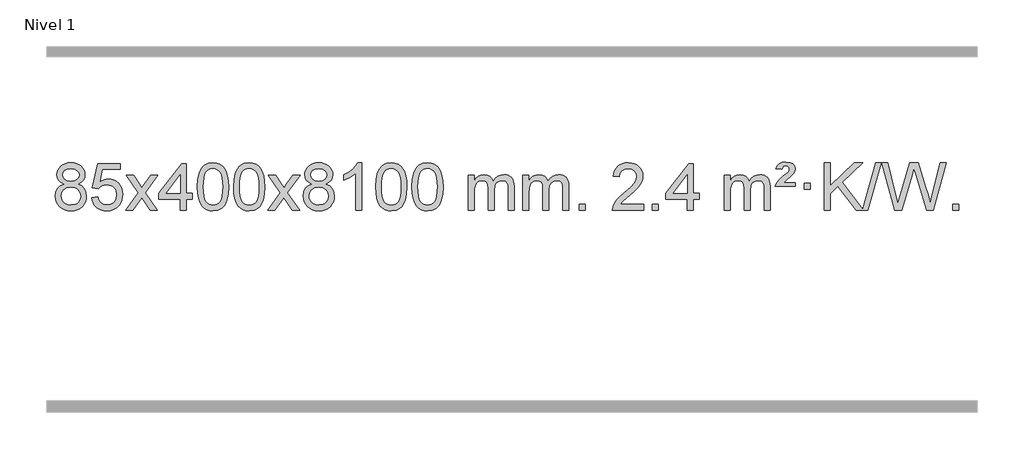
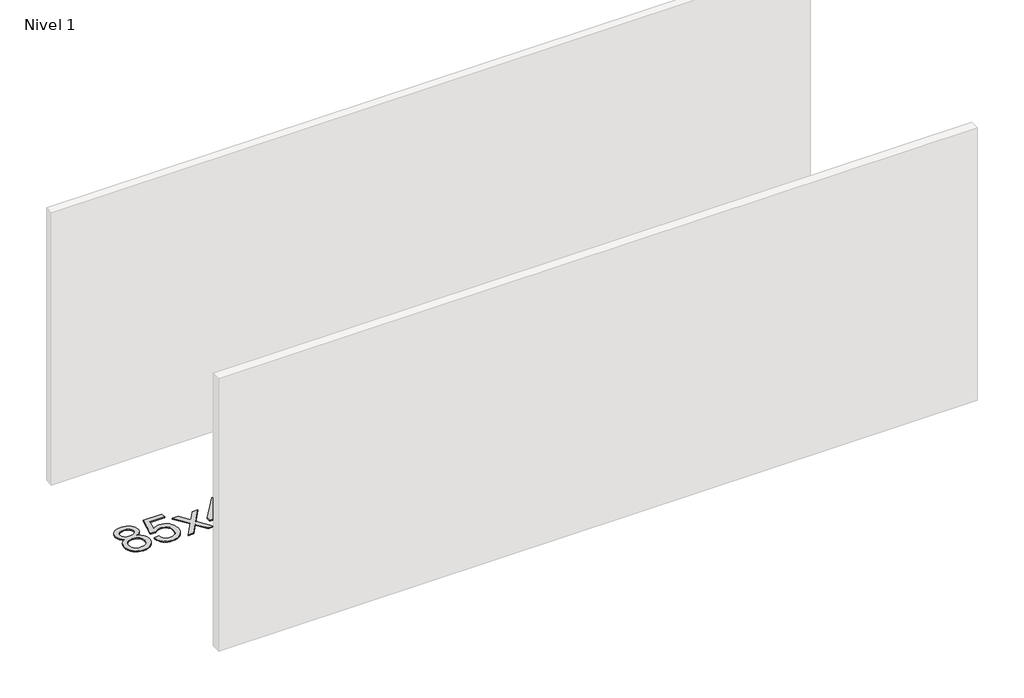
# One storey, part 3 of 12: 1 proxy.
"""IFC4 building model written with IfcOpenShell, lengths in millimetres."""

from ifc_helpers import new_model, si_unit, origin, origin_with_axes, place, context, project, spatial, polyline, outline, extrude, element, save

model = new_model("IFC4")

# Units and contexts
model_context = context("Model", 3, world=origin())
ifc_project = project(units=[si_unit("LENGTHUNIT", "METRE", prefix="MILLI")], contexts=[model_context])

# Site, building, storey
site = spatial("IfcSite", under=ifc_project)
building = spatial("IfcBuilding", under=site)
storey = spatial("IfcBuildingStorey", under=building, Name="Nivel 1", Elevation=0.0)

# Proxy
placement = place(None, origin())
element("IfcBuildingElementProxy", 1, Name="Texto de modelo 1", ObjectType="Texto de modelo 1", at=placement, inside=storey, context=model_context, shape_type="SweptSolid", body=[
    extrude(outline(polyline([(-11482.9857189, -6174.2616447), (-11509.8778927, -6161.0178929), (-11528.7502391, -6143.0652515), (-11539.8970635, -6120.7716026), (-11543.6126717, -6094.5048281), (-11541.5893207, -6074.0199324), (-11535.5192678, -6055.2395565), (-11525.4025129, -6038.1637006), (-11511.2390561, -6022.7923645), (-11493.709479, -6010.088173), (-11473.4943634, -6001.0137504), (-11450.5937092, -5995.5690969), (-11425.0075164, -5993.7542124), (-11399.2986964, -5995.6120165), (-11376.2263639, -6001.1854287), (-11355.7905191, -6010.4744491), (-11337.9911619, -6023.4790776), (-11323.5701876, -6039.1508506), (-11313.2694918, -6056.4413044), (-11307.0890743, -6075.3504389), (-11305.0289351, -6095.8782543), (-11308.6954923, -6121.2989001), (-11319.695164, -6143.2124043), (-11338.1505774, -6161.0546811), (-11364.1843599, -6174.2616447), (-11333.2700096, -6190.1909351), (-11310.7678942, -6213.6495436), (-11297.0458958, -6243.5092989), (-11292.4718963, -6278.6420295), (-11294.740502, -6303.6947933), (-11301.5463189, -6326.6628926), (-11312.8893471, -6347.5463272), (-11328.7695865, -6366.3450971), (-11348.3531714, -6381.88198), (-11370.8062358, -6392.9797536), (-11396.1287798, -6399.6384177), (-11424.3208034, -6401.8579724), (-11452.512827, -6399.6292206), (-11477.835371, -6392.9429654), (-11500.2884354, -6381.7992066), (-11519.8720203, -6366.1979443), (-11535.7522597, -6347.26735), (-11547.0952879, -6326.135595), (-11553.9011048, -6302.8026795), (-11556.1697105, -6277.2686033), (-11551.41177, -6240.7747094), (-11537.1379486, -6210.7555386), (-11514.0840102, -6188.2411605), (-11482.9857189, -6174.2616447)]), holes=[polyline([(-11493.3845166, -6095.9763561), (-11488.9331445, -6117.902123), (-11475.5790281, -6135.413306), (-11453.7145748, -6146.8912243), (-11423.7321922, -6150.717197), (-11394.4487854, -6146.9157497), (-11372.9154259, -6135.5114079), (-11359.6716741, -6118.5888361), (-11355.2570902, -6098.232699), (-11359.8188269, -6077.1040098), (-11373.5040371, -6059.629615), (-11395.3317022, -6047.8941794), (-11424.3208034, -6043.9823675), (-11453.4938456, -6047.8083402), (-11475.2847225, -6059.2862585), (-11488.8595681, -6076.1107284), (-11493.3845166, -6095.9763561)]), polyline([(-11505.9415554, -6275.5027698), (-11503.844628, -6294.7184726), (-11497.5538459, -6313.3210389), (-11485.9410376, -6329.5446349), (-11467.8780316, -6341.623427), (-11446.2465703, -6349.1282197), (-11423.9283959, -6351.6298173), (-11389.7398958, -6346.3691048), (-11375.8462192, -6339.7932141), (-11364.086258, -6330.5869672), (-11348.0466031, -6306.6869002), (-11342.7000514, -6277.0723996), (-11348.2182813, -6246.9551269), (-11364.7729711, -6222.5277625), (-11376.8517633, -6213.0854579), (-11391.0152201, -6206.3409547), (-11425.5961276, -6200.9453521), (-11459.3063811, -6206.2673783), (-11473.043708, -6212.919911), (-11484.7025015, -6222.2334569), (-11500.6317919, -6246.1948375), (-11505.9415554, -6275.5027698)])]), origin_with_axes(), (0.0, 0.0, 1.0), 10.0),
    extrude(outline(polyline([(-11248.5222606, -6288.8446235), (-11198.2941056, -6282.5661041), (-11189.0725302, -6312.7201649), (-11172.9838243, -6334.3148381), (-11150.1015642, -6347.3010725), (-11120.4993263, -6351.6298173), (-11101.3694626, -6350.1245668), (-11084.4959417, -6345.6088153), (-11069.8787638, -6338.0825628), (-11057.5179287, -6327.5458094), (-11047.6893481, -6314.519721), (-11040.6689334, -6299.5254641), (-11035.0526016, -6263.6324441), (-11040.3133141, -6229.8363514), (-11046.8892048, -6215.9181493), (-11056.0954517, -6203.9865099), (-11067.9627117, -6194.4154467), (-11082.5216417, -6187.5789729), (-11119.7145114, -6182.1097939), (-11144.0805622, -6184.2925604), (-11163.8112999, -6190.8408599), (-11179.568912, -6200.8717757), (-11192.0155862, -6213.5023908), (-11242.2437412, -6207.2238715), (-11198.2941056, -6000.0327318), (-11003.6600046, -6000.0327318), (-11003.6600046, -6050.2608869), (-11157.6799333, -6050.2608869), (-11179.1642418, -6160.919791), (-11161.438461, -6148.2155994), (-11143.2834845, -6139.1411769), (-11124.6993124, -6133.6965234), (-11105.6859446, -6131.8816388), (-11081.2248576, -6134.1318504), (-11058.7564648, -6140.882485), (-11038.2807661, -6152.1335427), (-11019.7977615, -6167.8850234), (-11004.4969362, -6187.1743027), (-10993.5677752, -6209.038756), (-10987.0102787, -6233.4783832), (-10984.8244465, -6260.4931844), (-10986.7926152, -6286.5147042), (-10992.6971212, -6310.7213394), (-11002.5379646, -6333.1130902), (-11016.3151453, -6353.6899565), (-11037.1863171, -6374.7634634), (-11061.5401052, -6389.8159684), (-11089.3765095, -6398.8474714), (-11120.69553, -6401.8579724), (-11146.6158823, -6399.9235262), (-11170.0285056, -6394.1201877), (-11190.9334, -6384.447957), (-11209.3305654, -6370.9068338), (-11224.6375221, -6354.1712688), (-11236.2717902, -6334.915712), (-11244.2333697, -6313.1401636), (-11248.5222606, -6288.8446235)])), origin_with_axes(), (0.0, 0.0, 1.0), 10.0),
    extrude(outline(polyline([(-10959.7103689, -6395.579453), (-10852.3869282, -6247.2494325), (-10953.4318496, -6100.4890419), (-10893.0011005, -6100.4890419), (-10844.2444734, -6171.122385), (-10821.4848406, -6204.4770192), (-10801.7663657, -6177.2047007), (-10746.2407099, -6100.4890419), (-10685.8099608, -6100.4890419), (-10791.9561791, -6247.2494325), (-10689.7340354, -6395.579453), (-10750.1647845, -6395.579453), (-10811.6746541, -6306.4048574), (-10822.9563686, -6290.1199477), (-10899.2796199, -6395.579453), (-10959.7103689, -6395.579453)])), origin_with_axes(), (0.0, 0.0, 1.0), 10.0),
    extrude(outline(polyline([(-10495.0999345, -6395.579453), (-10495.0999345, -6301.4016622), (-10677.1769967, -6301.4016622), (-10677.1769967, -6251.1735072), (-10482.5428957, -6000.0327318), (-10444.8717794, -6000.0327318), (-10444.8717794, -6251.1735072), (-10394.6436244, -6251.1735072), (-10394.6436244, -6301.4016622), (-10444.8717794, -6301.4016622), (-10444.8717794, -6395.579453), (-10495.0999345, -6395.579453)]), holes=[polyline([(-10495.0999345, -6251.1735072), (-10495.0999345, -6095.9763561), (-10615.3728215, -6251.1735072), (-10495.0999345, -6251.1735072)])]), origin_with_axes(), (0.0, 0.0, 1.0), 10.0),
    extrude(outline(polyline([(-10350.6939887, -6197.9041943), (-10347.002906, -6133.5861588), (-10335.9296579, -6082.2911459), (-10317.5846091, -6043.2343407), (-10305.7265461, -6028.0009605), (-10292.0781241, -6015.6309284), (-10276.5933578, -6006.0598651), (-10259.2262619, -5999.2233914), (-10218.8450816, -5993.7542124), (-10187.8939431, -5996.991574), (-10160.1801661, -6006.7036586), (-10137.0036004, -6022.5103217), (-10119.6640957, -6044.0314184), (-10106.5674967, -6071.0830078), (-10096.119648, -6103.4811488), (-10089.2770429, -6144.6226186), (-10086.9961745, -6197.9041943), (-10090.650469, -6261.8543477), (-10101.6133525, -6313.0267333), (-10119.8480367, -6352.1203266), (-10131.6785085, -6367.3996922), (-10145.3177335, -6379.8341036), (-10160.8208939, -6389.4695462), (-10178.2431721, -6396.3520052), (-10218.8450816, -6401.8579724), (-10246.5098076, -6399.4667394), (-10271.035274, -6392.2930405), (-10292.4214806, -6380.3368757), (-10310.6684276, -6363.5982449), (-10328.1796106, -6333.3399508), (-10340.6875984, -6295.6381776), (-10348.1923911, -6250.4929255), (-10350.6939887, -6197.9041943)]), holes=[polyline([(-10300.4658336, -6197.8060924), (-10298.9943056, -6241.4706195), (-10294.5797217, -6276.8148822), (-10287.2220818, -6303.8388804), (-10276.9213859, -6322.5426142), (-10264.462449, -6335.2682656), (-10250.630086, -6344.3580165), (-10235.4242968, -6349.8118671), (-10218.8450816, -6351.6298173), (-10202.2658663, -6349.8057357), (-10187.0600772, -6344.3334911), (-10173.2277142, -6335.2130833), (-10160.7687773, -6322.4445124), (-10150.4680814, -6303.7101217), (-10143.1104415, -6276.6922549), (-10138.6958576, -6241.3909118), (-10137.2243296, -6197.8060924), (-10138.6468066, -6155.2973278), (-10142.9142378, -6120.5753989), (-10150.026623, -6093.6403055), (-10159.9839624, -6074.4920476), (-10172.2344328, -6061.1440625), (-10186.2262114, -6051.6097875), (-10201.959298, -6045.8892225), (-10219.4336928, -6043.9823675), (-10235.9270689, -6045.6623619), (-10250.8753406, -6050.7023452), (-10264.278508, -6059.1023175), (-10276.136571, -6070.8622786), (-10286.7806234, -6091.708925), (-10294.3835179, -6119.8151094), (-10298.9452547, -6155.1808319), (-10300.4658336, -6197.8060924)])]), origin_with_axes(), (0.0, 0.0, 1.0), 10.0),
    extrude(outline(polyline([(-10043.0465388, -6197.9041943), (-10039.3554561, -6133.5861588), (-10028.2822081, -6082.2911459), (-10009.9371593, -6043.2343407), (-9998.0790963, -6028.0009605), (-9984.4306743, -6015.6309284), (-9968.945908, -6006.0598651), (-9951.5788121, -5999.2233914), (-9911.1976318, -5993.7542124), (-9880.2464932, -5996.991574), (-9852.5327163, -6006.7036586), (-9829.3561506, -6022.5103217), (-9812.0166459, -6044.0314184), (-9798.9200468, -6071.0830078), (-9788.4721982, -6103.4811488), (-9781.6295931, -6144.6226186), (-9779.3487247, -6197.9041943), (-9783.0030192, -6261.8543477), (-9793.9659026, -6313.0267333), (-9812.2005869, -6352.1203266), (-9824.0310587, -6367.3996922), (-9837.6702837, -6379.8341036), (-9853.1734441, -6389.4695462), (-9870.5957222, -6396.3520052), (-9911.1976318, -6401.8579724), (-9938.8623578, -6399.4667394), (-9963.3878241, -6392.2930405), (-9984.7740308, -6380.3368757), (-10003.0209778, -6363.5982449), (-10020.5321607, -6333.3399508), (-10033.0401486, -6295.6381776), (-10040.5449413, -6250.4929255), (-10043.0465388, -6197.9041943)]), holes=[polyline([(-9992.8183838, -6197.8060924), (-9991.3468558, -6241.4706195), (-9986.9322718, -6276.8148822), (-9979.5746319, -6303.8388804), (-9969.2739361, -6322.5426142), (-9956.8149992, -6335.2682656), (-9942.9826361, -6344.3580165), (-9927.776847, -6349.8118671), (-9911.1976318, -6351.6298173), (-9894.6184165, -6349.8057357), (-9879.4126274, -6344.3334911), (-9865.5802644, -6335.2130833), (-9853.1213275, -6322.4445124), (-9842.8206316, -6303.7101217), (-9835.4629917, -6276.6922549), (-9831.0484077, -6241.3909118), (-9829.5768798, -6197.8060924), (-9830.9993568, -6155.2973278), (-9835.266788, -6120.5753989), (-9842.3791732, -6093.6403055), (-9852.3365125, -6074.4920476), (-9864.586983, -6061.1440625), (-9878.5787615, -6051.6097875), (-9894.3118482, -6045.8892225), (-9911.786243, -6043.9823675), (-9928.2796191, -6045.6623619), (-9943.2278908, -6050.7023452), (-9956.6310582, -6059.1023175), (-9968.4891211, -6070.8622786), (-9979.1331735, -6091.708925), (-9986.7360681, -6119.8151094), (-9991.2978048, -6155.1808319), (-9992.8183838, -6197.8060924)])]), origin_with_axes(), (0.0, 0.0, 1.0), 10.0),
    extrude(outline(polyline([(-9754.2346472, -6395.579453), (-9646.9112064, -6247.2494325), (-9747.9561278, -6100.4890419), (-9687.5253787, -6100.4890419), (-9638.7687516, -6171.122385), (-9616.0091188, -6204.4770192), (-9596.2906439, -6177.2047007), (-9540.7649881, -6100.4890419), (-9480.334239, -6100.4890419), (-9586.4804574, -6247.2494325), (-9484.2583136, -6395.579453), (-9544.6890627, -6395.579453), (-9606.1989323, -6306.4048574), (-9617.4806468, -6290.1199477), (-9693.8038981, -6395.579453), (-9754.2346472, -6395.579453)])), origin_with_axes(), (0.0, 0.0, 1.0), 10.0),
    extrude(outline(polyline([(-9379.6817251, -6174.2616447), (-9406.573899, -6161.0178929), (-9425.4462453, -6143.0652515), (-9436.5930698, -6120.7716026), (-9440.3086779, -6094.5048281), (-9438.285327, -6074.0199324), (-9432.215274, -6055.2395565), (-9422.0985192, -6038.1637006), (-9407.9350624, -6022.7923645), (-9390.4054853, -6010.088173), (-9370.1903697, -6001.0137504), (-9347.2897155, -5995.5690969), (-9321.7035227, -5993.7542124), (-9295.9947026, -5995.6120165), (-9272.9223701, -6001.1854287), (-9252.4865253, -6010.4744491), (-9234.6871681, -6023.4790776), (-9220.2661939, -6039.1508506), (-9209.965498, -6056.4413044), (-9203.7850805, -6075.3504389), (-9201.7249413, -6095.8782543), (-9205.3914986, -6121.2989001), (-9216.3911702, -6143.2124043), (-9234.8465836, -6161.0546811), (-9260.8803662, -6174.2616447), (-9229.9660158, -6190.1909351), (-9207.4639005, -6213.6495436), (-9193.741902, -6243.5092989), (-9189.1679026, -6278.6420295), (-9191.4365082, -6303.6947933), (-9198.2423251, -6326.6628926), (-9209.5853533, -6347.5463272), (-9225.4655928, -6366.3450971), (-9245.0491776, -6381.88198), (-9267.5022421, -6392.9797536), (-9292.8247861, -6399.6384177), (-9321.0168096, -6401.8579724), (-9349.2088332, -6399.6292206), (-9374.5313772, -6392.9429654), (-9396.9844416, -6381.7992066), (-9416.5680265, -6366.1979443), (-9432.448266, -6347.26735), (-9443.7912942, -6326.135595), (-9450.5971111, -6302.8026795), (-9452.8657167, -6277.2686033), (-9448.1077762, -6240.7747094), (-9433.8339548, -6210.7555386), (-9410.7800165, -6188.2411605), (-9379.6817251, -6174.2616447)]), holes=[polyline([(-9402.6375616, -6275.5027698), (-9400.5406343, -6294.7184726), (-9394.2498521, -6313.3210389), (-9382.6370438, -6329.5446349), (-9364.5740379, -6341.623427), (-9342.9425765, -6349.1282197), (-9320.6244022, -6351.6298173), (-9286.4359021, -6346.3691048), (-9272.5422254, -6339.7932141), (-9260.7822643, -6330.5869672), (-9244.7426093, -6306.6869002), (-9239.3960576, -6277.0723996), (-9244.9142876, -6246.9551269), (-9261.4689773, -6222.5277625), (-9273.5477695, -6213.0854579), (-9287.7112263, -6206.3409547), (-9322.2921339, -6200.9453521), (-9356.0023874, -6206.2673783), (-9369.7397142, -6212.919911), (-9381.3985078, -6222.2334569), (-9397.3277982, -6246.1948375), (-9402.6375616, -6275.5027698)]), polyline([(-9390.0805229, -6095.9763561), (-9385.6291507, -6117.902123), (-9372.2750343, -6135.413306), (-9350.410581, -6146.8912243), (-9320.4281984, -6150.717197), (-9291.1447916, -6146.9157497), (-9269.6114322, -6135.5114079), (-9256.3676803, -6118.5888361), (-9251.9530964, -6098.232699), (-9256.5148331, -6077.1040098), (-9270.2000434, -6059.629615), (-9292.0277084, -6047.8941794), (-9321.0168096, -6043.9823675), (-9350.1898519, -6047.8083402), (-9371.9807287, -6059.2862585), (-9385.5555743, -6076.1107284), (-9390.0805229, -6095.9763561)])]), origin_with_axes(), (0.0, 0.0, 1.0), 10.0),
    extrude(outline(polyline([(-8956.8626853, -6395.579453), (-9007.0908404, -6395.579453), (-9007.0908404, -6082.4382987), (-9028.0601141, -6099.3976587), (-9054.6702451, -6116.3324932), (-9107.5471506, -6141.6918254), (-9107.5471506, -6094.2105225), (-9068.097938, -6072.7507395), (-9033.9217006, -6047.219729), (-9006.9804758, -6020.0700378), (-8989.2363009, -5993.7542124), (-8956.8626853, -5993.7542124), (-8956.8626853, -6395.579453)])), origin_with_axes(), (0.0, 0.0, 1.0), 10.0),
    extrude(outline(polyline([(-8837.570817, -6197.9041943), (-8833.8797344, -6133.5861588), (-8822.8064863, -6082.2911459), (-8804.4614375, -6043.2343407), (-8792.6033745, -6028.0009605), (-8778.9549525, -6015.6309284), (-8763.4701862, -6006.0598651), (-8746.1030903, -5999.2233914), (-8705.72191, -5993.7542124), (-8674.7707714, -5996.991574), (-8647.0569945, -6006.7036586), (-8623.8804288, -6022.5103217), (-8606.5409241, -6044.0314184), (-8593.444325, -6071.0830078), (-8582.9964764, -6103.4811488), (-8576.1538713, -6144.6226186), (-8573.8730029, -6197.9041943), (-8577.5272974, -6261.8543477), (-8588.4901808, -6313.0267333), (-8606.7248651, -6352.1203266), (-8618.5553369, -6367.3996922), (-8632.1945619, -6379.8341036), (-8647.6977223, -6389.4695462), (-8665.1200004, -6396.3520052), (-8705.72191, -6401.8579724), (-8733.386636, -6399.4667394), (-8757.9121024, -6392.2930405), (-8779.298309, -6380.3368757), (-8797.545256, -6363.5982449), (-8815.0564389, -6333.3399508), (-8827.5644268, -6295.6381776), (-8835.0692195, -6250.4929255), (-8837.570817, -6197.9041943)]), holes=[polyline([(-8787.342662, -6197.8060924), (-8785.871134, -6241.4706195), (-8781.45655, -6276.8148822), (-8774.0989101, -6303.8388804), (-8763.7982143, -6322.5426142), (-8751.3392774, -6335.2682656), (-8737.5069144, -6344.3580165), (-8722.3011252, -6349.8118671), (-8705.72191, -6351.6298173), (-8689.1426947, -6349.8057357), (-8673.9369056, -6344.3334911), (-8660.1045426, -6335.2130833), (-8647.6456057, -6322.4445124), (-8637.3449098, -6303.7101217), (-8629.9872699, -6276.6922549), (-8625.572686, -6241.3909118), (-8624.101158, -6197.8060924), (-8625.523635, -6155.2973278), (-8629.7910662, -6120.5753989), (-8636.9034514, -6093.6403055), (-8646.8607907, -6074.4920476), (-8659.1112612, -6061.1440625), (-8673.1030397, -6051.6097875), (-8688.8361264, -6045.8892225), (-8706.3105212, -6043.9823675), (-8722.8038973, -6045.6623619), (-8737.752169, -6050.7023452), (-8751.1553364, -6059.1023175), (-8763.0133993, -6070.8622786), (-8773.6574517, -6091.708925), (-8781.2603463, -6119.8151094), (-8785.8220831, -6155.1808319), (-8787.342662, -6197.8060924)])]), origin_with_axes(), (0.0, 0.0, 1.0), 10.0),
    extrude(outline(polyline([(-8529.9233672, -6197.9041943), (-8526.2322845, -6133.5861588), (-8515.1590365, -6082.2911459), (-8496.8139876, -6043.2343407), (-8484.9559247, -6028.0009605), (-8471.3075026, -6015.6309284), (-8455.8227363, -6006.0598651), (-8438.4556405, -5999.2233914), (-8398.0744601, -5993.7542124), (-8367.1233216, -5996.991574), (-8339.4095446, -6006.7036586), (-8316.2329789, -6022.5103217), (-8298.8934742, -6044.0314184), (-8285.7968752, -6071.0830078), (-8275.3490265, -6103.4811488), (-8268.5064214, -6144.6226186), (-8266.2255531, -6197.9041943), (-8269.8798475, -6261.8543477), (-8280.842731, -6313.0267333), (-8299.0774152, -6352.1203266), (-8310.9078871, -6367.3996922), (-8324.547112, -6379.8341036), (-8340.0502724, -6389.4695462), (-8357.4725506, -6396.3520052), (-8398.0744601, -6401.8579724), (-8425.7391862, -6399.4667394), (-8450.2646525, -6392.2930405), (-8471.6508592, -6380.3368757), (-8489.8978061, -6363.5982449), (-8507.4089891, -6333.3399508), (-8519.9169769, -6295.6381776), (-8527.4217696, -6250.4929255), (-8529.9233672, -6197.9041943)]), holes=[polyline([(-8479.6952121, -6197.8060924), (-8478.2236842, -6241.4706195), (-8473.8091002, -6276.8148822), (-8466.4514603, -6303.8388804), (-8456.1507644, -6322.5426142), (-8443.6918275, -6335.2682656), (-8429.8594645, -6344.3580165), (-8414.6536754, -6349.8118671), (-8398.0744601, -6351.6298173), (-8381.4952449, -6349.8057357), (-8366.2894558, -6344.3334911), (-8352.4570927, -6335.2130833), (-8339.9981558, -6322.4445124), (-8329.69746, -6303.7101217), (-8322.3398201, -6276.6922549), (-8317.9252361, -6241.3909118), (-8316.4537081, -6197.8060924), (-8317.8761852, -6155.2973278), (-8322.1436163, -6120.5753989), (-8329.2560016, -6093.6403055), (-8339.2133409, -6074.4920476), (-8351.4638113, -6061.1440625), (-8365.4555899, -6051.6097875), (-8381.1886766, -6045.8892225), (-8398.6630713, -6043.9823675), (-8415.1564474, -6045.6623619), (-8430.1047192, -6050.7023452), (-8443.5078865, -6059.1023175), (-8455.3659495, -6070.8622786), (-8466.0100019, -6091.708925), (-8473.6128965, -6119.8151094), (-8478.1746332, -6155.1808319), (-8479.6952121, -6197.8060924)])]), origin_with_axes(), (0.0, 0.0, 1.0), 10.0),
    extrude(outline(polyline([(-8052.755894, -6395.579453), (-8052.755894, -6100.4890419), (-8002.5277389, -6100.4890419), (-8002.5277389, -6149.0494653), (-7987.4200517, -6126.7435537), (-7967.9958823, -6109.2691589), (-7944.9174185, -6097.9751816), (-7918.8468478, -6094.2105225), (-7890.9123416, -6098.048758), (-7868.5205908, -6109.5634645), (-7851.7942228, -6127.9943524), (-7840.8558648, -6152.5811324), (-7822.5476041, -6127.0439906), (-7801.6641696, -6108.803175), (-7778.205561, -6097.8586857), (-7752.1717785, -6094.2105225), (-7732.0639617, -6095.7280358), (-7714.414823, -6100.2805755), (-7699.2243623, -6107.8681416), (-7686.4925796, -6118.4907342), (-7676.4279413, -6132.2709806), (-7669.238914, -6149.3315082), (-7664.9254976, -6169.6723168), (-7663.4876922, -6193.2934066), (-7663.4876922, -6395.579453), (-7713.7158472, -6395.579453), (-7713.7158472, -6214.875817), (-7714.8808069, -6189.8230531), (-7718.3756858, -6172.9372695), (-7724.9239854, -6161.3735121), (-7735.2492067, -6152.2868268), (-7748.5297467, -6146.4007149), (-7763.9440023, -6144.4386776), (-7791.1550072, -6149.4663982), (-7813.3382915, -6164.54956), (-7821.9436645, -6176.1194488), (-7828.0903595, -6190.7182326), (-7833.0077155, -6229.0024856), (-7833.0077155, -6395.579453), (-7883.2358706, -6395.579453), (-7883.2358706, -6209.2840106), (-7886.1421384, -6180.8835206), (-7894.8609417, -6160.6254854), (-7910.2016209, -6148.4853796), (-7932.9735164, -6144.4386776), (-7952.3241093, -6147.1364789), (-7970.1541233, -6155.2298828), (-7984.8694032, -6168.5226856), (-7994.8757934, -6186.8186835), (-8000.6147525, -6212.2025411), (-8002.5277389, -6246.7589232), (-8002.5277389, -6395.579453), (-8052.755894, -6395.579453)])), origin_with_axes(), (0.0, 0.0, 1.0), 10.0),
    extrude(outline(polyline([(-7588.1454596, -6395.579453), (-7588.1454596, -6100.4890419), (-7537.9173045, -6100.4890419), (-7537.9173045, -6149.0494653), (-7522.8096172, -6126.7435537), (-7503.3854479, -6109.2691589), (-7480.306984, -6097.9751816), (-7454.2364133, -6094.2105225), (-7426.3019071, -6098.048758), (-7403.9101564, -6109.5634645), (-7387.1837883, -6127.9943524), (-7376.2454303, -6152.5811324), (-7357.9371697, -6127.0439906), (-7337.0537351, -6108.803175), (-7313.5951266, -6097.8586857), (-7287.561344, -6094.2105225), (-7267.4535273, -6095.7280358), (-7249.8043886, -6100.2805755), (-7234.6139279, -6107.8681416), (-7221.8821452, -6118.4907342), (-7211.8175069, -6132.2709806), (-7204.6284796, -6149.3315082), (-7200.3150632, -6169.6723168), (-7198.8772577, -6193.2934066), (-7198.8772577, -6395.579453), (-7249.1054128, -6395.579453), (-7249.1054128, -6214.875817), (-7250.2703724, -6189.8230531), (-7253.7652514, -6172.9372695), (-7260.3135509, -6161.3735121), (-7270.6387722, -6152.2868268), (-7283.9193123, -6146.4007149), (-7299.3335679, -6144.4386776), (-7326.5445728, -6149.4663982), (-7348.7278571, -6164.54956), (-7357.3332301, -6176.1194488), (-7363.4799251, -6190.7182326), (-7368.3972811, -6229.0024856), (-7368.3972811, -6395.579453), (-7418.6254362, -6395.579453), (-7418.6254362, -6209.2840106), (-7421.5317039, -6180.8835206), (-7430.2505072, -6160.6254854), (-7445.5911864, -6148.4853796), (-7468.3630819, -6144.4386776), (-7487.7136749, -6147.1364789), (-7505.5436889, -6155.2298828), (-7520.2589687, -6168.5226856), (-7530.265359, -6186.8186835), (-7536.0043181, -6212.2025411), (-7537.9173045, -6246.7589232), (-7537.9173045, -6395.579453), (-7588.1454596, -6395.579453)])), origin_with_axes(), (0.0, 0.0, 1.0), 10.0),
    extrude(outline(polyline([(-7110.9779863, -6395.579453), (-7110.9779863, -6345.3512979), (-7060.7498313, -6345.3512979), (-7060.7498313, -6395.579453), (-7110.9779863, -6395.579453)])), origin_with_axes(), (0.0, 0.0, 1.0), 10.0),
    extrude(outline(polyline([(-6564.7467999, -6345.3512979), (-6564.7467999, -6395.579453), (-6828.444614, -6395.579453), (-6827.3409681, -6377.8965918), (-6823.0490115, -6360.9494945), (-6810.6636509, -6333.8856424), (-6792.5393313, -6307.6311307), (-6766.3216078, -6280.1503456), (-6729.6560356, -6249.4076736), (-6675.454755, -6201.2641831), (-6642.9339866, -6165.7267824), (-6626.6736024, -6136.884834), (-6621.2534744, -6108.8277005), (-6626.3670341, -6083.6768347), (-6641.7077133, -6062.7688747), (-6665.2889492, -6048.6789943), (-6695.124179, -6043.9823675), (-6726.4554623, -6048.5686297), (-6750.7969876, -6062.3274163), (-6766.5055488, -6084.1796068), (-6771.9379396, -6113.0460807), (-6822.1660947, -6106.7675613), (-6817.8465469, -6080.838012), (-6809.9892006, -6058.1826125), (-6798.5940558, -6038.8013627), (-6783.6611125, -6022.6942627), (-6765.5337272, -6010.0329907), (-6744.5552564, -6000.989225), (-6720.7257002, -5995.5629655), (-6694.0450585, -5993.7542124), (-6667.1252935, -5995.7653006), (-6643.1669785, -6001.7985654), (-6622.1701137, -6011.8540066), (-6604.1346989, -6025.9316242), (-6589.6493453, -6042.9890861), (-6579.3026642, -6061.9840598), (-6573.0946555, -6082.9165453), (-6571.0253193, -6105.7865427), (-6573.2571367, -6129.8092369), (-6579.952589, -6153.4149983), (-6591.8351775, -6177.4254299), (-6609.6284033, -6202.6621347), (-6637.9921051, -6232.7916701), (-6681.5861216, -6271.4805933), (-6739.3681203, -6319.795762), (-6762.0296512, -6345.3512979), (-6564.7467999, -6345.3512979)])), origin_with_axes(), (0.0, 0.0, 1.0), 10.0),
    extrude(outline(polyline([(-6489.4045673, -6395.579453), (-6489.4045673, -6345.3512979), (-6439.1764122, -6345.3512979), (-6439.1764122, -6395.579453), (-6489.4045673, -6395.579453)])), origin_with_axes(), (0.0, 0.0, 1.0), 10.0),
    extrude(outline(polyline([(-6194.3141562, -6395.579453), (-6194.3141562, -6301.4016622), (-6376.3912184, -6301.4016622), (-6376.3912184, -6251.1735072), (-6181.7571175, -6000.0327318), (-6144.0860012, -6000.0327318), (-6144.0860012, -6251.1735072), (-6093.8578461, -6251.1735072), (-6093.8578461, -6301.4016622), (-6144.0860012, -6301.4016622), (-6144.0860012, -6395.579453), (-6194.3141562, -6395.579453)]), holes=[polyline([(-6194.3141562, -6251.1735072), (-6194.3141562, -6095.9763561), (-6314.5870432, -6251.1735072), (-6194.3141562, -6251.1735072)])]), origin_with_axes(), (0.0, 0.0, 1.0), 10.0),
    extrude(outline(polyline([(-5880.388187, -6395.579453), (-5880.388187, -6100.4890419), (-5830.1600319, -6100.4890419), (-5830.1600319, -6149.0494653), (-5815.0523447, -6126.7435537), (-5795.6281753, -6109.2691589), (-5772.5497115, -6097.9751816), (-5746.4791408, -6094.2105225), (-5718.5446346, -6098.048758), (-5696.1528838, -6109.5634645), (-5679.4265158, -6127.9943524), (-5668.4881578, -6152.5811324), (-5650.1798972, -6127.0439906), (-5629.2964626, -6108.803175), (-5605.837854, -6097.8586857), (-5579.8040715, -6094.2105225), (-5559.6962548, -6095.7280358), (-5542.047116, -6100.2805755), (-5526.8566553, -6107.8681416), (-5514.1248726, -6118.4907342), (-5504.0602344, -6132.2709806), (-5496.871207, -6149.3315082), (-5492.5577906, -6169.6723168), (-5491.1199852, -6193.2934066), (-5491.1199852, -6395.579453), (-5541.3481403, -6395.579453), (-5541.3481403, -6214.875817), (-5542.5130999, -6189.8230531), (-5546.0079789, -6172.9372695), (-5552.5562784, -6161.3735121), (-5562.8814997, -6152.2868268), (-5576.1620397, -6146.4007149), (-5591.5762953, -6144.4386776), (-5618.7873002, -6149.4663982), (-5640.9705845, -6164.54956), (-5649.5759576, -6176.1194488), (-5655.7226526, -6190.7182326), (-5660.6400086, -6229.0024856), (-5660.6400086, -6395.579453), (-5710.8681636, -6395.579453), (-5710.8681636, -6209.2840106), (-5713.7744314, -6180.8835206), (-5722.4932347, -6160.6254854), (-5737.8339139, -6148.4853796), (-5760.6058094, -6144.4386776), (-5779.9564023, -6147.1364789), (-5797.7864164, -6155.2298828), (-5812.5016962, -6168.5226856), (-5822.5080864, -6186.8186835), (-5828.2470456, -6212.2025411), (-5830.1600319, -6246.7589232), (-5830.1600319, -6395.579453), (-5880.388187, -6395.579453)])), origin_with_axes(), (0.0, 0.0, 1.0), 10.0),
    extrude(outline(polyline([(-5447.1703495, -6194.6668327), (-5443.3443767, -6178.8479069), (-5435.0057182, -6162.9799302), (-5413.4968842, -6137.8413272), (-5381.5402016, -6110.1030247), (-5337.3943621, -6072.726214), (-5330.2574514, -6061.1992448), (-5327.8784812, -6049.3779701), (-5329.7669421, -6037.2869152), (-5335.4323248, -6027.5012541), (-5344.801053, -6021.026531), (-5357.7995501, -6018.8682899), (-5370.2339616, -6020.4869707), (-5379.0876549, -6025.343013), (-5385.5133271, -6034.8098431), (-5390.663675, -6050.2608869), (-5440.8918301, -6043.9823675), (-5430.051574, -6018.7701881), (-5413.4233078, -6001.2099542), (-5389.6581309, -5990.9092583), (-5357.4071427, -5987.475693), (-5321.6244873, -5991.6082341), (-5296.8782917, -6004.0058573), (-5282.4573175, -6022.3386434), (-5277.6503261, -6044.2766731), (-5281.746079, -6067.1834586), (-5294.0333376, -6088.8149199), (-5314.561153, -6108.6314968), (-5351.0305214, -6136.6886303), (-5376.6351083, -6163.2742358), (-5277.6503261, -6163.2742358), (-5277.6503261, -6194.6668327), (-5447.1703495, -6194.6668327)])), origin_with_axes(), (0.0, 0.0, 1.0), 10.0),
    extrude(outline(polyline([(-5202.3080935, -6219.7809102), (-5202.3080935, -6169.5527552), (-5152.0799384, -6169.5527552), (-5152.0799384, -6219.7809102), (-5202.3080935, -6219.7809102)])), origin_with_axes(), (0.0, 0.0, 1.0), 10.0),
    extrude(outline(polyline([(-4761.4383105, -6395.579453), (-4914.8696279, -6192.9009991), (-4982.559915, -6257.4520265), (-4982.559915, -6395.579453), (-5032.7880701, -6395.579453), (-5032.7880701, -5993.7542124), (-4982.559915, -5993.7542124), (-4982.559915, -6190.4484525), (-4776.5459977, -5993.7542124), (-4706.3050621, -5993.7542124), (-4879.2586508, -6158.9577537), (-4704.6050409, -6389.5349332), (-4593.2917132, -5993.7542124), (-4547.9686514, -5993.7542124), (-4660.9820003, -6395.579453), (-4700.0265428, -6395.579453), (-4706.3050621, -6395.579453), (-4761.4383105, -6395.579453)])), origin_with_axes(), (0.0, 0.0, 1.0), 10.0),
    extrude(outline(polyline([(-4433.4837745, -6395.579453), (-4543.0635581, -5993.7542124), (-4491.2657732, -5993.7542124), (-4427.6957645, -6257.844434), (-4408.0753914, -6339.3670841), (-4387.0815922, -6267.2622131), (-4307.4228775, -5993.7542124), (-4232.7673579, -5993.7542124), (-4174.8872574, -6192.0180823), (-4150.0920109, -6265.5944814), (-4131.8205385, -6339.3670841), (-4112.7887766, -6260.1988788), (-4048.6301566, -5993.7542124), (-3996.8323717, -5993.7542124), (-4106.5102572, -6395.579453), (-4160.1719776, -6395.579453), (-4256.5080094, -6085.5775584), (-4269.9479649, -6042.3146358), (-4285.0556522, -6094.4067263), (-4372.8568217, -6395.579453), (-4433.4837745, -6395.579453)])), origin_with_axes(), (0.0, 0.0, 1.0), 10.0),
    extrude(outline(polyline([(-3940.3256972, -6395.579453), (-3940.3256972, -6345.3512979), (-3890.0975422, -6345.3512979), (-3890.0975422, -6395.579453), (-3940.3256972, -6395.579453)])), origin_with_axes(), (0.0, 0.0, 1.0), 10.0),
])

save(model, "model.ifc")
